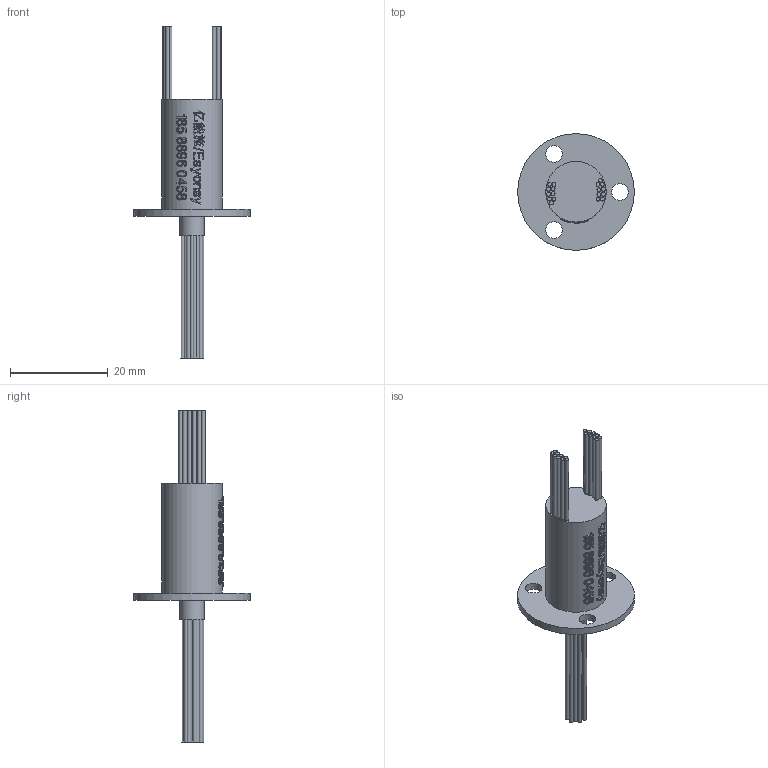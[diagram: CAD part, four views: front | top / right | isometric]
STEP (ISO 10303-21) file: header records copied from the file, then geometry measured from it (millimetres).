
FILE_DESCRIPTION(/* description */ (''),/* implementation_level */ '2;1');
FILE_NAME(/* name */ 'YM012-18.stp',/* time_stamp */ '2025-09-05T08:28:11+08:00',/* author */ (''),/* organization */ (''),/* preprocessor_version */ 'ST-DEVELOPER v16.7',/* originating_system */ 'SIEMENS PLM Software NX 12.0',/* authorisation */ '');
FILE_SCHEMA (('AUTOMOTIVE_DESIGN { 1 0 10303 214 3 1 1 1 }'));
Length unit declared in the file: millimetre
Products named in the file (1): Admi30D0F06639zt
Bounding box: 23.9 x 23.9 x 68 mm (x, y, z)
Volume: 3806.9 mm3; surface area: 3865.2 mm2
Topology: 1 solids, 1 shells, 765 faces, 2039 edges, 1360 vertices
Faces by surface type: extrusion 450, plane 227, cylinder 59, bspline 29
Full cylindrical faces by diameter (mm): 0.8 x37, 3.4 x3, 5 x1, 12.4 x1, 23.9 x1
Entity records: 31283 total; most frequent: CARTESIAN_POINT 15504, ORIENTED_EDGE 3988, B_SPLINE_CURVE_WITH_KNOTS 2116, EDGE_CURVE 1994, DIRECTION 1568, VERTEX_POINT 1358, EDGE_LOOP 898, ADVANCED_FACE 765
